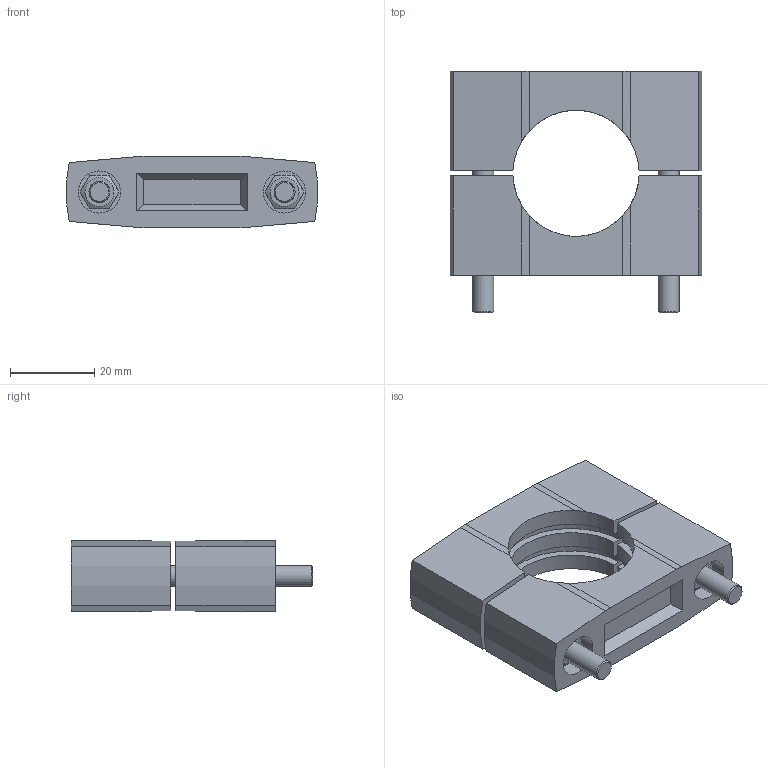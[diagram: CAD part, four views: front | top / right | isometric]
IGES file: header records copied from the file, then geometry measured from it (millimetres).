
Global section: file name: 153-00018_MC 30 Halteschelle FM 30_0; native system: Autodesk Inventor 2014; preprocessor: unknown; author: ss; date: 20150716.104537; units: millimetre
Bounding box: 59.81 x 57.5 x 17 mm (x, y, z)
Volume: 30531 mm3; surface area: 15208 mm2
Topology: 6 solids, 6 shells, 124 faces, 314 edges, 210 vertices
Faces by surface type: bspline 124
